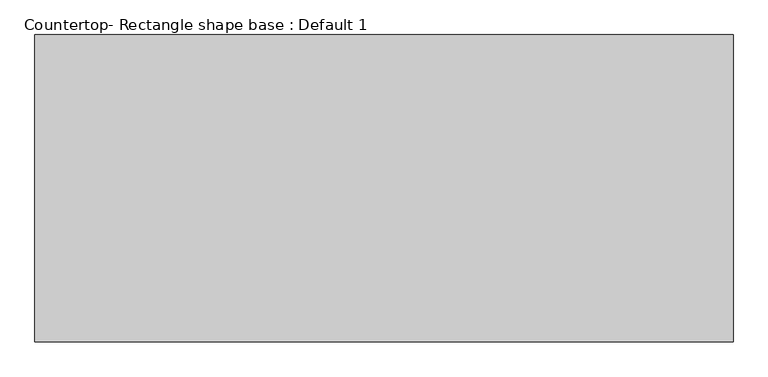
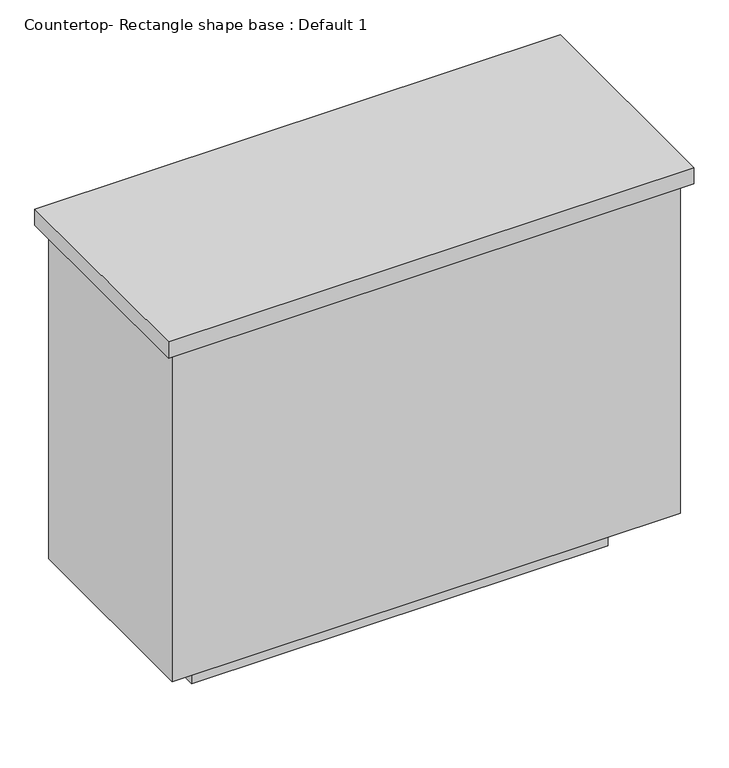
"""IFC4 building model written with IfcOpenShell, lengths in millimetres: proxy geometry, Countertop- Rectangle shape base : Default 1."""

from ifc_helpers import new_model, si_unit, frame, origin, origin_with_axes, place, context, project, spatial, polyline, outline, extrude, source, transform, mapped, element, save


def countertop_rectangle_shape_base_default_1_2039a246(model_context):
    return source(origin(), model_context, "Body", "SweptSolid", [
        extrude(outline(polyline([(180.9693149, 125.1835386), (180.9693149, 636.8164614), (1343.0306851, 636.8164614), (1343.0306851, 125.1835386), (180.9693149, 125.1835386)])), frame((0.0, 0.0, 876.3), z_axis=(0.0, 0.0, 1.0), x_axis=(1.0, 0.0, 0.0)), (0.0, 0.0, 1.0), 38.1),
        extrude(outline(polyline([(1323.9806851, 617.7664614), (1323.9806851, 144.2335386), (200.0193149, 144.2335386), (200.0193149, 617.7664614), (1323.9806851, 617.7664614)])), frame((0.0, 0.0, 101.6), z_axis=(0.0, 0.0, 1.0), x_axis=(1.0, 0.0, 0.0)), (0.0, 0.0, 1.0), 774.7),
        extrude(outline(polyline([(1222.3806851, 516.1664614), (1222.3806851, 245.8335386), (301.6193149, 245.8335386), (301.6193149, 516.1664614), (1222.3806851, 516.1664614)])), origin_with_axes(), (0.0, 0.0, 1.0), 101.6),
    ])


if __name__ == "__main__":
    model = new_model("IFC4")
    model_context = context("Model", 3, world=origin())
    ifc_project = project(units=[si_unit("LENGTHUNIT", "METRE", prefix="MILLI")], contexts=[model_context])
    site = spatial("IfcSite", under=ifc_project)
    building = spatial("IfcBuilding", under=site)
    placement = place(None, origin())
    countertop_rectangle_shape_base_default_1_shape = countertop_rectangle_shape_base_default_1_2039a246(model_context)
    element("IfcBuildingElementProxy", 1, Name="Countertop- Rectangle shape base : Default 1", ObjectType="Countertop- Rectangle shape base : Default 1", at=placement, inside=building, context=model_context, shape_type="MappedRepresentation", body=[
        mapped(countertop_rectangle_shape_base_default_1_shape, transform((0.0, 0.0, 0.0), x_axis=(1.0, 0.0, 0.0), y_axis=(0.0, 1.0, 0.0), z_axis=(0.0, 0.0, 1.0))),
    ])
    save(model, "model.ifc")
